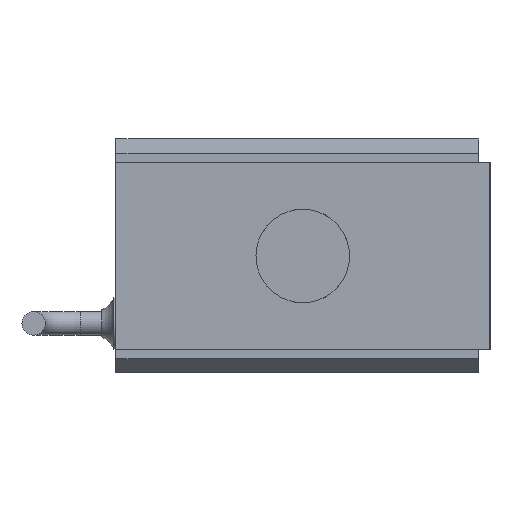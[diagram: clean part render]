
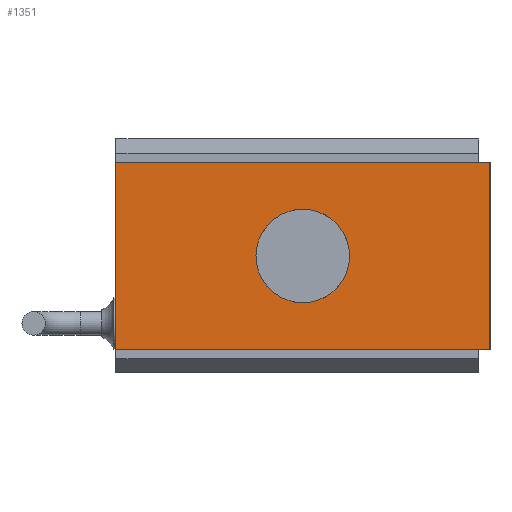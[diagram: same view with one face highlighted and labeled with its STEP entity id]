
A CAD part, front view. The second image highlights one B-rep face of the part: STEP entity #1351.
In plain terms, the highlighted planar face has unit normal (0, -1, 0).
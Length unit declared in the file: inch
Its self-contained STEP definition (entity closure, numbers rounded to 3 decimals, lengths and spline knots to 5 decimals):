
#13 = VECTOR ( 'NONE', #1121, 39.37008 ) ;
#23 = DIRECTION ( 'NONE',  ( 0., -1., 0. ) ) ;
#50 = VERTEX_POINT ( 'NONE', #1223 ) ;
#140 = AXIS2_PLACEMENT_3D ( 'NONE', #833, #1445, #728 ) ;
#229 = CARTESIAN_POINT ( 'NONE',  ( 1., 0., 0.5 ) ) ;
#286 = CARTESIAN_POINT ( 'NONE',  ( -1., 0., 0.5 ) ) ;
#306 = VECTOR ( 'NONE', #926, 39.37008 ) ;
#399 = CARTESIAN_POINT ( 'NONE',  ( -1., 0., -0.5 ) ) ;
#415 = EDGE_LOOP ( 'NONE', ( #1499 ) ) ;
#503 = DIRECTION ( 'NONE',  ( 0., 0., 1. ) ) ;
#554 = VERTEX_POINT ( 'NONE', #1022 ) ;
#596 = CARTESIAN_POINT ( 'NONE',  ( 1., 0., 0.5 ) ) ;
#615 = CARTESIAN_POINT ( 'NONE',  ( -1., 0., -0.5 ) ) ;
#616 = AXIS2_PLACEMENT_3D ( 'NONE', #1014, #23, #1176 ) ;
#691 = FACE_BOUND ( 'NONE', #415, .T. ) ;
#728 = DIRECTION ( 'NONE',  ( 0., 0., -1. ) ) ;
#803 = EDGE_LOOP ( 'NONE', ( #1517, #1711, #1653, #1477 ) ) ;
#833 = CARTESIAN_POINT ( 'NONE',  ( 1., 0., -0.5 ) ) ;
#858 = EDGE_CURVE ( 'NONE', #1232, #1846, #1651, .T. ) ;
#926 = DIRECTION ( 'NONE',  ( 0., 0., 1. ) ) ;
#989 = DIRECTION ( 'NONE',  ( -1., 0., 0. ) ) ;
#1014 = CARTESIAN_POINT ( 'NONE',  ( 0., 0., 0. ) ) ;
#1022 = CARTESIAN_POINT ( 'NONE',  ( 0., 0., 0.25 ) ) ;
#1029 = EDGE_CURVE ( 'NONE', #1673, #1846, #1817, .T. ) ;
#1121 = DIRECTION ( 'NONE',  ( -1., 0., 0. ) ) ;
#1176 = DIRECTION ( 'NONE',  ( 0., 0., 1. ) ) ;
#1223 = CARTESIAN_POINT ( 'NONE',  ( 1., 0., -0.5 ) ) ;
#1232 = VERTEX_POINT ( 'NONE', #229 ) ;
#1247 = LINE ( 'NONE', #1953, #1302 ) ;
#1302 = VECTOR ( 'NONE', #989, 39.37008 ) ;
#1349 = EDGE_CURVE ( 'NONE', #50, #1232, #1545, .T. ) ;
#1351 = ADVANCED_FACE ( 'NONE', ( #691, #1974 ), #1719, .F. ) ;
#1445 = DIRECTION ( 'NONE',  ( 0., 1., 0. ) ) ;
#1477 = ORIENTED_EDGE ( 'NONE', *, *, #1349, .T. ) ;
#1499 = ORIENTED_EDGE ( 'NONE', *, *, #2093, .F. ) ;
#1517 = ORIENTED_EDGE ( 'NONE', *, *, #858, .T. ) ;
#1545 = LINE ( 'NONE', #2035, #306 ) ;
#1566 = CIRCLE ( 'NONE', #616, 0.25 ) ;
#1651 = LINE ( 'NONE', #596, #13 ) ;
#1653 = ORIENTED_EDGE ( 'NONE', *, *, #1991, .F. ) ;
#1669 = VECTOR ( 'NONE', #503, 39.37008 ) ;
#1673 = VERTEX_POINT ( 'NONE', #399 ) ;
#1711 = ORIENTED_EDGE ( 'NONE', *, *, #1029, .F. ) ;
#1719 = PLANE ( 'NONE',  #140 ) ;
#1817 = LINE ( 'NONE', #615, #1669 ) ;
#1846 = VERTEX_POINT ( 'NONE', #286 ) ;
#1953 = CARTESIAN_POINT ( 'NONE',  ( 1., 0., -0.5 ) ) ;
#1974 = FACE_OUTER_BOUND ( 'NONE', #803, .T. ) ;
#1991 = EDGE_CURVE ( 'NONE', #50, #1673, #1247, .T. ) ;
#2035 = CARTESIAN_POINT ( 'NONE',  ( 1., 0., -0.5 ) ) ;
#2093 = EDGE_CURVE ( 'NONE', #554, #554, #1566, .T. ) ;
